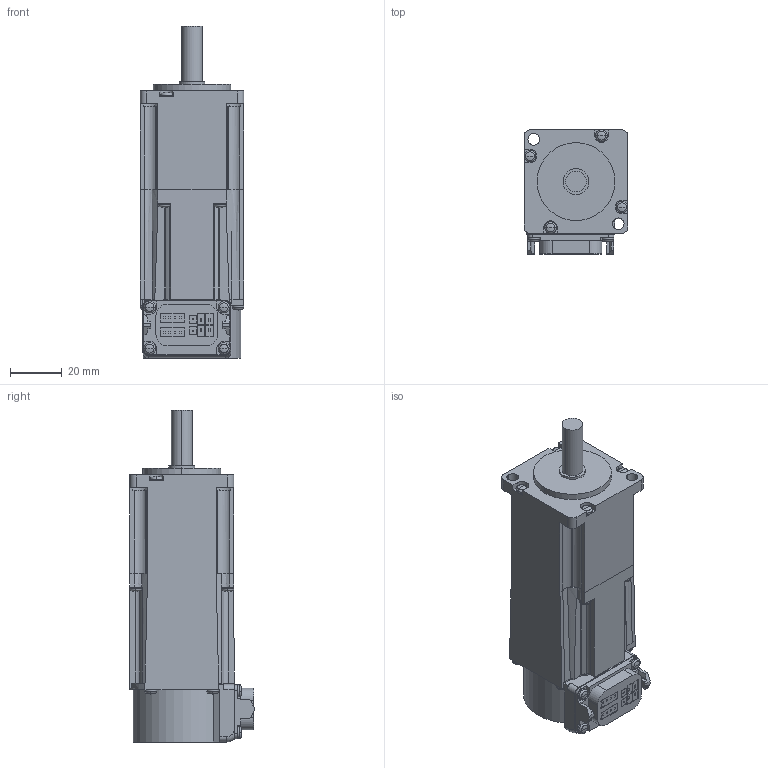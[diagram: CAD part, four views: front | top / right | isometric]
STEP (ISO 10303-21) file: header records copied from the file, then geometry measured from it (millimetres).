
FILE_DESCRIPTION((''),'2;1');
FILE_NAME('HK-KT13WB_-_ASM','2019-01-16T',('XE90682'),(''),'CREO PARAMETRIC BY PTC INC, 2016380','CREO PARAMETRIC BY PTC INC, 2016380','');
FILE_SCHEMA(('CONFIG_CONTROL_DESIGN'));
Length unit declared in the file: millimetre
Products named in the file (1): HK-KT13WB_-_ASM
Bounding box: 40 x 47.85 x 128 mm (x, y, z)
Volume: 146733.4 mm3; surface area: 21272.6 mm2
Topology: 1 solids, 1 shells, 464 faces, 1216 edges, 757 vertices
Faces by surface type: plane 249, cylinder 137, torus 34, sphere 32, bspline 12
Entity records: 14417 total; most frequent: CARTESIAN_POINT 2890, DIRECTION 2451, ORIENTED_EDGE 2368, EDGE_CURVE 1184, AXIS2_PLACEMENT_3D 848, VERTEX_POINT 757, VECTOR 755, LINE 755
